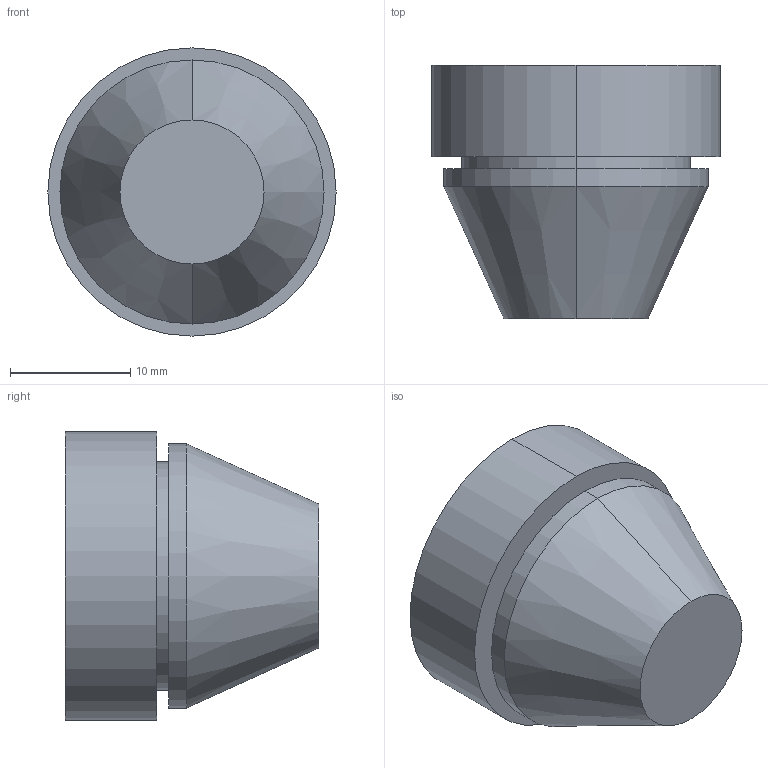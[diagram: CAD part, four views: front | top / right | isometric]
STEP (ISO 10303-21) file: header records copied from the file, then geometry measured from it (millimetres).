
FILE_DESCRIPTION (( 'STEP AP203' ), '1' );
FILE_NAME ('100295.STEP', '2012-10-29T10:39:18', ( 'Joni' ), ( 'Hewlett-Packard Company' ), 'SwSTEP 2.0', 'SolidWorks 2012', '' );
FILE_SCHEMA (( 'CONFIG_CONTROL_DESIGN' ));
Length unit declared in the file: millimetre
Products named in the file (1): 100295
Bounding box: 24 x 21.1 x 24 mm (x, y, z)
Volume: 6860.7 mm3; surface area: 2212.7 mm2
Topology: 1 solids, 1 shells, 12 faces, 22 edges, 14 vertices
Faces by surface type: cylinder 6, plane 4, cone 2
Entity records: 381 total; most frequent: DIRECTION 62, CARTESIAN_POINT 49, ORIENTED_EDGE 44, AXIS2_PLACEMENT_3D 27, EDGE_CURVE 22, VERTEX_POINT 14, EDGE_LOOP 14, CIRCLE 14
